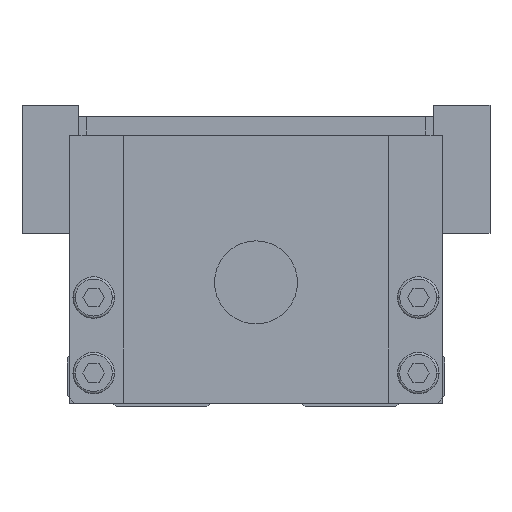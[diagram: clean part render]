
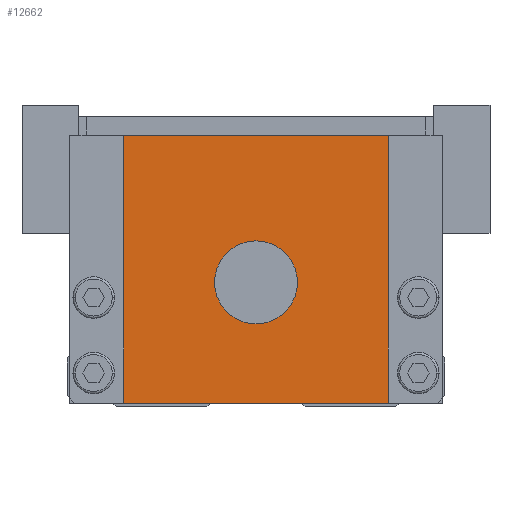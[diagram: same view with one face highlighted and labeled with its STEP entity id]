
A CAD part, front view. The second image highlights one B-rep face of the part: STEP entity #12662.
In plain terms, the highlighted planar face has unit normal (0, -1, 0).
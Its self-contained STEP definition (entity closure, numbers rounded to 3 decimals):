
#4422=EDGE_CURVE('',#8572,#7712,#13026,.T.);
#5238=EDGE_CURVE('',#7356,#12070,#13935,.T.);
#5560=EDGE_CURVE('',#12070,#7356,#14289,.T.);
#5584=VERTEX_POINT('',#14316);
#6550=EDGE_CURVE('',#6726,#5584,#15394,.T.);
#6726=VERTEX_POINT('',#15593);
#7356=VERTEX_POINT('',#16290);
#7712=VERTEX_POINT('',#16690);
#8572=VERTEX_POINT('',#17664);
#9538=EDGE_CURVE('',#8572,#5584,#18736,.T.);
#10646=EDGE_CURVE('',#7712,#6726,#19963,.T.);
#12070=VERTEX_POINT('',#21557);
#12662=ADVANCED_FACE('',(#22210,#22211),#22212,.F.);
#13026=LINE('',#22638,#22639);
#13935=CIRCLE('',#23892,5.5);
#14289=CIRCLE('',#24379,5.5);
#14316=CARTESIAN_POINT('',(-17.5,0.0,0.5));
#15394=LINE('',#25929,#25930);
#15593=CARTESIAN_POINT('',(17.5,0.0,0.5));
#16290=CARTESIAN_POINT('',(-5.5,0.0,16.5));
#16690=CARTESIAN_POINT('',(17.5,0.0,36.0));
#17664=CARTESIAN_POINT('',(-17.5,0.0,36.0));
#18736=LINE('',#30769,#30770);
#19963=LINE('',#32523,#32524);
#21557=CARTESIAN_POINT('',(5.5,0.0,16.5));
#22210=FACE_BOUND('',#35840,.T.);
#22211=FACE_OUTER_BOUND('',#35841,.T.);
#22212=PLANE('',#35842);
#22638=CARTESIAN_POINT('',(0.0,0.0,36.0));
#22639=VECTOR('',#36314,1.0);
#23892=AXIS2_PLACEMENT_3D('',#37464,#37465,#37466);
#24379=AXIS2_PLACEMENT_3D('',#37858,#37859,#37860);
#25929=CARTESIAN_POINT('',(0.0,0.0,0.5));
#25930=VECTOR('',#39156,1.0);
#30769=CARTESIAN_POINT('',(-17.5,0.0,18.25));
#30770=VECTOR('',#43002,1.0);
#32523=CARTESIAN_POINT('',(17.5,0.0,18.25));
#32524=VECTOR('',#44371,1.0);
#35840=EDGE_LOOP('',(#46906,#46907));
#35841=EDGE_LOOP('',(#46908,#46909,#46910,#46911));
#35842=AXIS2_PLACEMENT_3D('',#46912,#46913,#46914);
#36314=DIRECTION('',(1.0,0.0,0.0));
#37464=CARTESIAN_POINT('',(0.0,0.0,16.5));
#37465=DIRECTION('',(-0.0,1.0,0.0));
#37466=DIRECTION('',(1.0,0.0,0.0));
#37858=CARTESIAN_POINT('',(0.0,0.0,16.5));
#37859=DIRECTION('',(-0.0,1.0,0.0));
#37860=DIRECTION('',(1.0,0.0,0.0));
#39156=DIRECTION('',(-1.0,0.0,0.0));
#43002=DIRECTION('',(0.0,0.0,-1.0));
#44371=DIRECTION('',(0.0,0.0,-1.0));
#46906=ORIENTED_EDGE('',*,*,#5560,.T.);
#46907=ORIENTED_EDGE('',*,*,#5238,.T.);
#46908=ORIENTED_EDGE('',*,*,#9538,.T.);
#46909=ORIENTED_EDGE('',*,*,#6550,.F.);
#46910=ORIENTED_EDGE('',*,*,#10646,.F.);
#46911=ORIENTED_EDGE('',*,*,#4422,.F.);
#46912=CARTESIAN_POINT('',(0.0,0.0,18.25));
#46913=DIRECTION('',(0.0,1.0,0.0));
#46914=DIRECTION('',(0.0,0.0,1.0));
